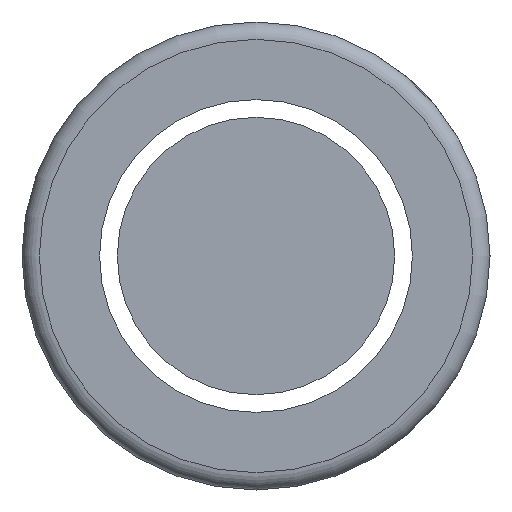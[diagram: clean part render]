
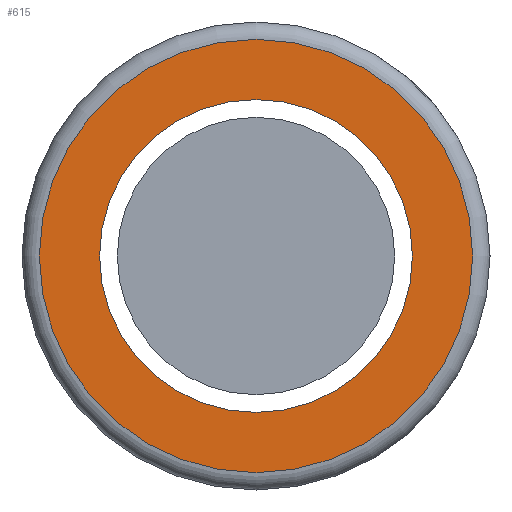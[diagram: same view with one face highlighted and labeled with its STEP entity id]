
A CAD part, left-side view. The second image highlights one B-rep face of the part: STEP entity #615.
In plain terms, the highlighted planar face has unit normal (-1, 0, 0).
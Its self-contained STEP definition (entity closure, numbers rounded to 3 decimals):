
#8 = ORIENTED_EDGE ( 'NONE', *, *, #207, .T. ) ;
#20 = CARTESIAN_POINT ( 'NONE',  ( -85., 0., 0. ) ) ;
#26 = EDGE_LOOP ( 'NONE', ( #247 ) ) ;
#42 = DIRECTION ( 'NONE',  ( -1., 0., 0. ) ) ;
#93 = AXIS2_PLACEMENT_3D ( 'NONE', #477, #384, #584 ) ;
#170 = DIRECTION ( 'NONE',  ( 1., 0., 0. ) ) ;
#204 = CIRCLE ( 'NONE', #264, 18.05 ) ;
#207 = EDGE_CURVE ( 'NONE', #383, #383, #204, .T. ) ;
#241 = DIRECTION ( 'NONE',  ( 0., 0., 1. ) ) ;
#247 = ORIENTED_EDGE ( 'NONE', *, *, #576, .T. ) ;
#264 = AXIS2_PLACEMENT_3D ( 'NONE', #20, #170, #368 ) ;
#274 = VERTEX_POINT ( 'NONE', #284 ) ;
#275 = PLANE ( 'NONE',  #394 ) ;
#284 = CARTESIAN_POINT ( 'NONE',  ( -85., 0., 25. ) ) ;
#341 = EDGE_LOOP ( 'NONE', ( #8 ) ) ;
#368 = DIRECTION ( 'NONE',  ( 0., 0., -1. ) ) ;
#374 = CIRCLE ( 'NONE', #93, 25. ) ;
#383 = VERTEX_POINT ( 'NONE', #632 ) ;
#384 = DIRECTION ( 'NONE',  ( -1., 0., 0. ) ) ;
#394 = AXIS2_PLACEMENT_3D ( 'NONE', #479, #42, #241 ) ;
#430 = FACE_OUTER_BOUND ( 'NONE', #26, .T. ) ;
#434 = FACE_BOUND ( 'NONE', #341, .T. ) ;
#477 = CARTESIAN_POINT ( 'NONE',  ( -85., 0., 0. ) ) ;
#479 = CARTESIAN_POINT ( 'NONE',  ( -85., 27., 0. ) ) ;
#576 = EDGE_CURVE ( 'NONE', #274, #274, #374, .T. ) ;
#584 = DIRECTION ( 'NONE',  ( 0., 0., 1. ) ) ;
#615 = ADVANCED_FACE ( 'NONE', ( #430, #434 ), #275, .T. ) ;
#632 = CARTESIAN_POINT ( 'NONE',  ( -85., 0., -18.05 ) ) ;
